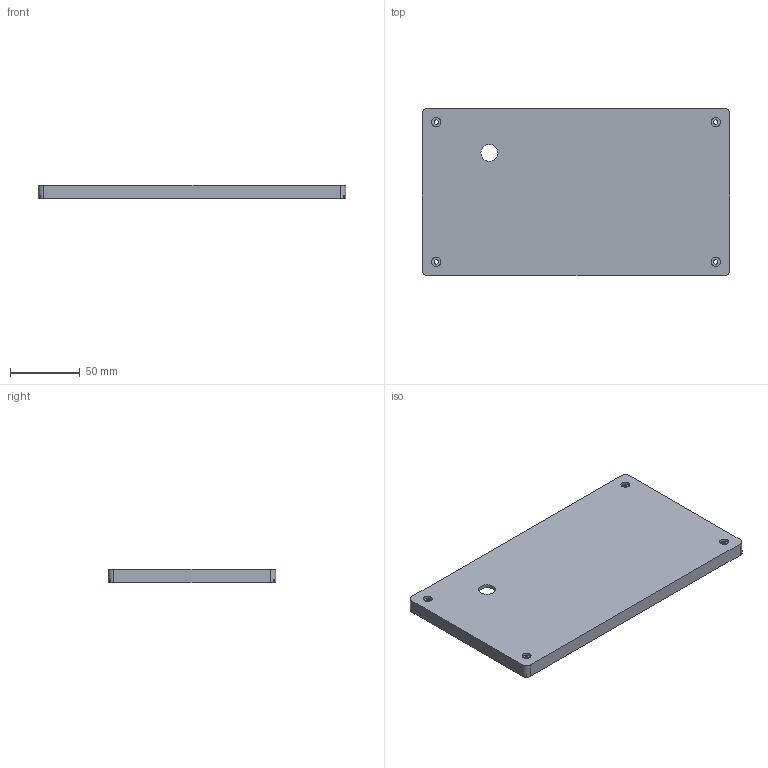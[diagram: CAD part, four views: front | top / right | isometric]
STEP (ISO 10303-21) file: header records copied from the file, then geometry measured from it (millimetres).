
FILE_DESCRIPTION(('Open CASCADE Model'),'2;1');
FILE_NAME('Open CASCADE Shape Model','2026-11-20T16:44:58',('Author'),( 'Open CASCADE'),'Open CASCADE STEP processor 7.9','Open CASCADE 7.9' ,'Unknown');
FILE_SCHEMA(('AUTOMOTIVE_DESIGN { 1 0 10303 214 1 1 1 1 }'));
Length unit declared in the file: millimetre
Products named in the file (1): Open CASCADE STEP translator 7.9 2
Bounding box: 220 x 120 x 10 mm (x, y, z)
Volume: 83523.6 mm3; surface area: 68878.9 mm2
Topology: 1 solids, 1 shells, 49 faces, 123 edges, 82 vertices
Faces by surface type: plane 32, cylinder 17
Full cylindrical faces by diameter (mm): 3.2 x4, 6.5 x4, 12 x1
Entity records: 3082 total; most frequent: CARTESIAN_POINT 581, DIRECTION 461, ORIENTED_EDGE 246, PCURVE 246, DEFINITIONAL_REPRESENTATION 246, LINE 241, VECTOR 241, EDGE_CURVE 123
